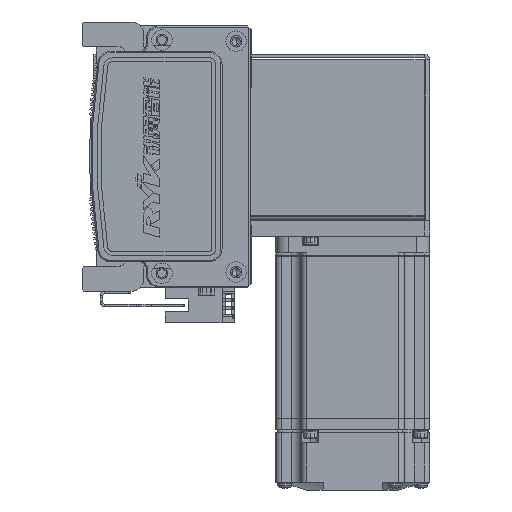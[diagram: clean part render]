
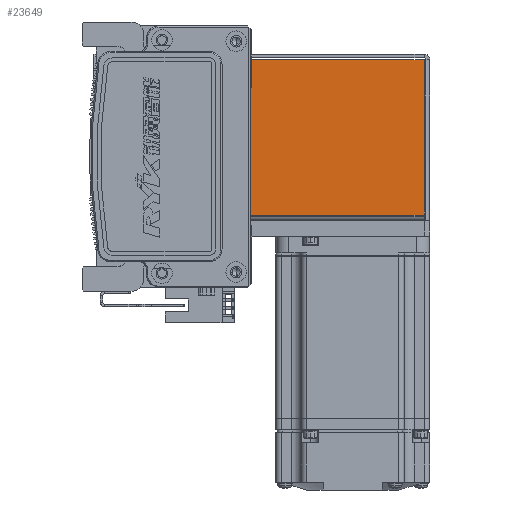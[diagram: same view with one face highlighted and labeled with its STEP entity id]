
A CAD part, left-side view. The second image highlights one B-rep face of the part: STEP entity #23649.
In plain terms, the highlighted planar face has unit normal (-1, 0, 0) as drawn and (0, 0, -1) by its records, which use the part's own axes.
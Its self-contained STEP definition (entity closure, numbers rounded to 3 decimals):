
#2911 = CARTESIAN_POINT ( 'NONE',  ( 32.5, 0.737, -35. ) ) ;
#3061 = EDGE_CURVE ( 'NONE', #22621, #4394, #8669, .T. ) ;
#4394 = VERTEX_POINT ( 'NONE', #21415 ) ;
#4703 = CARTESIAN_POINT ( 'NONE',  ( -30.293, 0.737, -35. ) ) ;
#5385 = CARTESIAN_POINT ( 'NONE',  ( 0., 72.5, -35. ) ) ;
#8669 = LINE ( 'NONE', #5385, #33073 ) ;
#11344 = EDGE_CURVE ( 'NONE', #17272, #29316, #64830, .T. ) ;
#13633 = FACE_OUTER_BOUND ( 'NONE', #54381, .T. ) ;
#14100 = CARTESIAN_POINT ( 'NONE',  ( 30.263, 72.5, -35. ) ) ;
#15070 = DIRECTION ( 'NONE',  ( 0., -1., 0. ) ) ;
#17272 = VERTEX_POINT ( 'NONE', #4703 ) ;
#19039 = ORIENTED_EDGE ( 'NONE', *, *, #70476, .T. ) ;
#21174 = CARTESIAN_POINT ( 'NONE',  ( 0., 0., -35. ) ) ;
#21415 = CARTESIAN_POINT ( 'NONE',  ( 30.263, 72.5, -35. ) ) ;
#22621 = VERTEX_POINT ( 'NONE', #49796 ) ;
#22950 = VECTOR ( 'NONE', #41186, 1000. ) ;
#23649 = ADVANCED_FACE ( 'NONE', ( #13633 ), #31939, .F. ) ;
#29316 = VERTEX_POINT ( 'NONE', #41438 ) ;
#30136 = ORIENTED_EDGE ( 'NONE', *, *, #45831, .T. ) ;
#31939 = PLANE ( 'NONE',  #44780 ) ;
#32464 = DIRECTION ( 'NONE',  ( 1., 0., 0. ) ) ;
#33073 = VECTOR ( 'NONE', #32464, 1000. ) ;
#33553 = LINE ( 'NONE', #14100, #50099 ) ;
#37942 = LINE ( 'NONE', #38540, #69324 ) ;
#38540 = CARTESIAN_POINT ( 'NONE',  ( -30.293, 0., -35. ) ) ;
#40129 = ORIENTED_EDGE ( 'NONE', *, *, #11344, .F. ) ;
#41186 = DIRECTION ( 'NONE',  ( 1., 0., 0. ) ) ;
#41438 = CARTESIAN_POINT ( 'NONE',  ( 30.263, 0.737, -35. ) ) ;
#43137 = DIRECTION ( 'NONE',  ( 0., 0., 1. ) ) ;
#44780 = AXIS2_PLACEMENT_3D ( 'NONE', #21174, #43137, #15070 ) ;
#45831 = EDGE_CURVE ( 'NONE', #17272, #22621, #37942, .T. ) ;
#49796 = CARTESIAN_POINT ( 'NONE',  ( -30.293, 72.5, -35. ) ) ;
#50099 = VECTOR ( 'NONE', #69181, 1000. ) ;
#54381 = EDGE_LOOP ( 'NONE', ( #19039, #40129, #30136, #67073 ) ) ;
#64830 = LINE ( 'NONE', #2911, #22950 ) ;
#67073 = ORIENTED_EDGE ( 'NONE', *, *, #3061, .T. ) ;
#69181 = DIRECTION ( 'NONE',  ( 0., -1., 0. ) ) ;
#69324 = VECTOR ( 'NONE', #71431, 1000. ) ;
#70476 = EDGE_CURVE ( 'NONE', #4394, #29316, #33553, .T. ) ;
#71431 = DIRECTION ( 'NONE',  ( 0., 1., 0. ) ) ;
